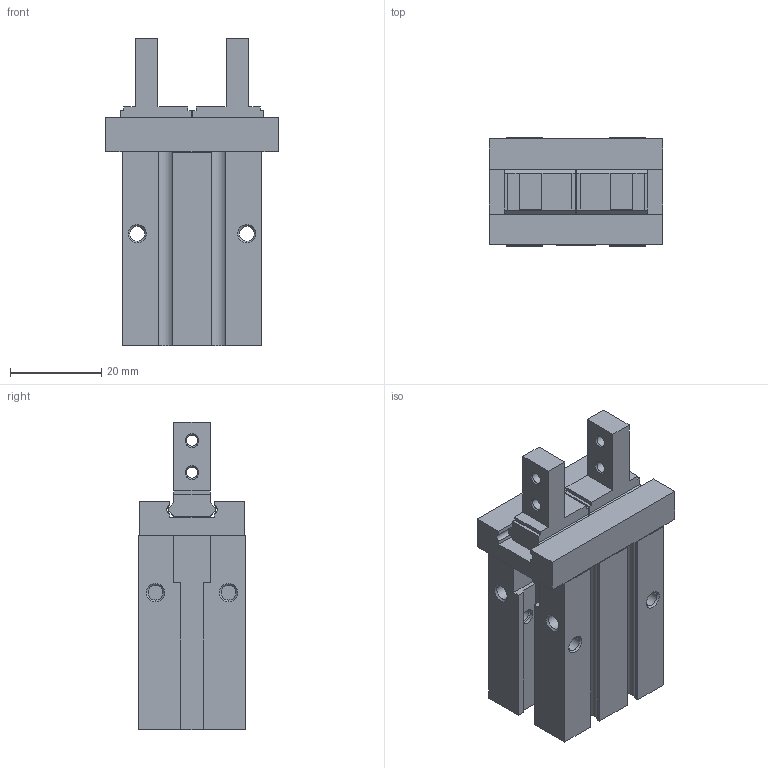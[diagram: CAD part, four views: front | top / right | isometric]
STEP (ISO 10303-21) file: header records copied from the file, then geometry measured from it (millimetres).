
FILE_DESCRIPTION( ( 'STEP AP214' ), '1' );
FILE_NAME( 'F:/CRG-3D-PAN-XU/CRG-chan pin kai fa cun dang - xu/协助/样品整理/平行夹/MHZ2-16D_14.9_0_.stp', '2023-03-07T09:58:37', ( '' ), ( '' ), ' ', 'PARTsolutions', ' ' );
FILE_SCHEMA( ( 'AUTOMOTIVE_DESIGN { 1 0 10303 214 1 1 1 1 }' ) );
Length unit declared in the file: millimetre
Products named in the file (3): MHZ2-16D(14.9_0); _MHZ2-16D_Body(0); _MHZ2-16D_Finger(0)
Assembly tree (3 placements, depth 2):
  MHZ2-16D(14.9_0)
    _MHZ2-16D_Body(0)
    _MHZ2-16D_Finger(0)  x2
Bounding box: 38 x 23.6 x 67.3 mm (x, y, z)
Volume: 31847.7 mm3; surface area: 12863.3 mm2
Topology: 3 solids, 3 shells, 202 faces, 528 edges, 342 vertices
Faces by surface type: plane 150, cylinder 30, cone 22
Full cylindrical faces by diameter (mm): 2.459 x4, 3 x1, 3.242 x8, 3.4 x4, 4.134 x2, 17 x1
Entity records: 6124 total; most frequent: CARTESIAN_POINT 822, DIRECTION 802, ORIENTED_EDGE 768, EDGE_CURVE 384, LINE 302, VECTOR 302, VERTEX_POINT 270, AXIS2_PLACEMENT_3D 250
